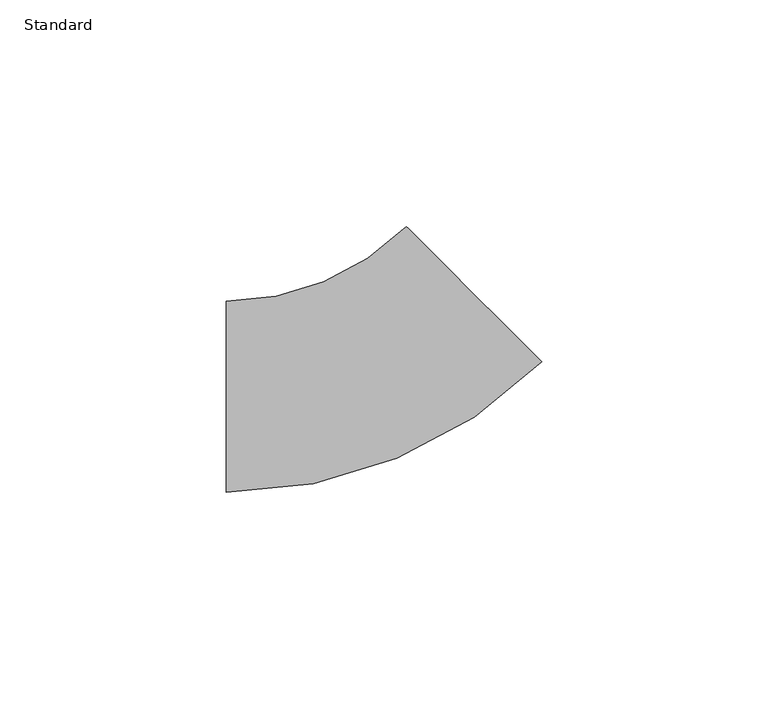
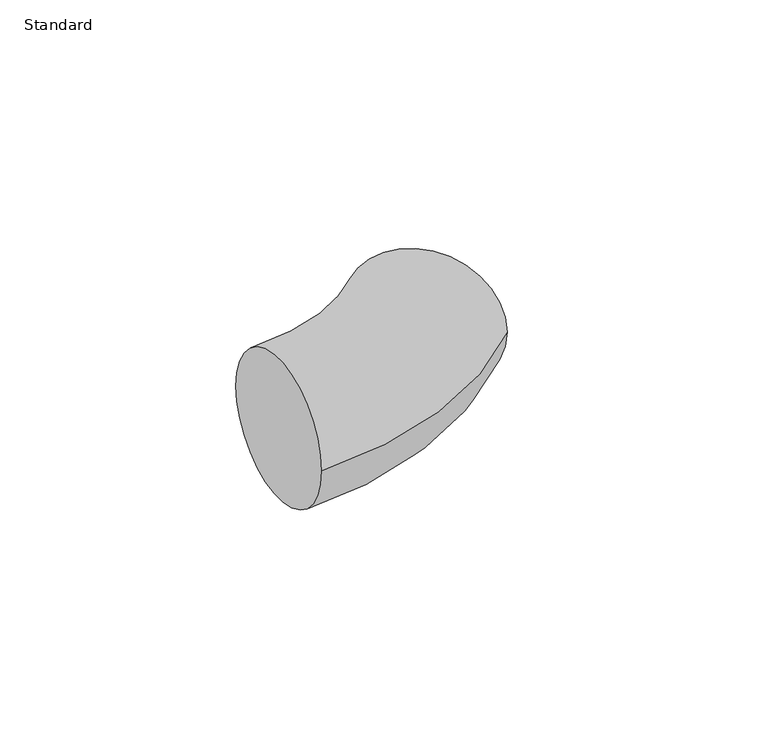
"""IFC4 building model written with IfcOpenShell, lengths in millimetres: pipe fitting geometry, Coude - Générique1 : Standard."""

import ifcopenshell
import ifcopenshell.guid

model = None  # the IFC model being written
_history = None  # IfcOwnerHistory: only IFC2X3 demands one
_inside = {}  # id of a spatial element -> (the spatial element, [elements in it])
_under = {}  # id of a project, library or spatial element -> (it, [spatial elements below it])
_declared = {}  # id of a project -> (the project, [libraries it declares])
_typed = {}  # id of a type object -> (the type object, [elements of that type])
_made_of = {}  # id of a material, layer set ... -> (it, [elements and type objects made of it])


def new_model(schema):
    """Start an empty IFC model of exactly this schema.

    Asked for "IFC4X3", IfcOpenShell would pick the latest addendum, in which some entities
    have other attributes; the version numbers below select the first issue.
    IFC2X3 requires an IfcOwnerHistory on every rooted entity: one is made here for all.
    """
    global model, _history
    if schema == "IFC4X3":
        model = ifcopenshell.file(schema_version=(4, 3, 0, 0))
    else:
        model = ifcopenshell.file(schema=schema)
    _inside.clear()
    _under.clear()
    _declared.clear()
    _typed.clear()
    _made_of.clear()
    _history = None
    if model.schema == "IFC2X3":
        org = make("IfcOrganization", Name="unknown")
        user = make(
            "IfcPersonAndOrganization",
            ThePerson=make("IfcPerson", FamilyName="unknown"),
            TheOrganization=org,
        )
        app = make(
            "IfcApplication",
            ApplicationDeveloper=org,
            Version="unknown",
            ApplicationFullName="unknown",
            ApplicationIdentifier="unknown",
        )
        _history = make(
            "IfcOwnerHistory",
            OwningUser=user,
            OwningApplication=app,
            ChangeAction="ADDED",
            CreationDate=0,
        )
    return model


def make(cls, **values):
    """One entity of the class cls with the attributes given. An attribute that is None is left unset."""
    return model.create_entity(
        cls, **{name: value for name, value in values.items() if value is not None}
    )


def rooted(cls, **values):
    """An entity with a GlobalId (a new one), such as an element, a storey or a relation."""
    return make(cls, GlobalId=ifcopenshell.guid.new(), OwnerHistory=_history, **values)


def si_unit(unit_type, name, prefix=None):
    """IfcSIUnit, for example si_unit("LENGTHUNIT", "METRE", prefix="MILLI")."""
    return make("IfcSIUnit", UnitType=unit_type, Prefix=prefix, Name=name)


def assignment(units):
    """IfcUnitAssignment: the units of a project."""
    return None if units is None else make("IfcUnitAssignment", Units=units)


def point(xyz):
    """IfcCartesianPoint."""
    return None if xyz is None else make("IfcCartesianPoint", Coordinates=xyz)


def direction(xyz):
    """IfcDirection."""
    return None if xyz is None else make("IfcDirection", DirectionRatios=xyz)


def frame(location, z_axis=None, x_axis=None):
    """IfcAxis2Placement3D, a coordinate frame: its origin and axes. An axis left out is left unset."""
    return make(
        "IfcAxis2Placement3D",
        Location=point(location),
        Axis=direction(z_axis),
        RefDirection=direction(x_axis),
    )


def origin():
    """The frame at (0, 0, 0) with its axes left unset."""
    return frame((0.0, 0.0, 0.0))


def place(relative_to, where):
    """IfcLocalPlacement: puts the frame where relative to a parent placement (None: the world)."""
    return make(
        "IfcLocalPlacement", PlacementRelTo=relative_to, RelativePlacement=where
    )


def context(
    kind, dimensions, precision=None, world=None, true_north=None, identifier=None
):
    """IfcGeometricRepresentationContext, for example the 3D "Model" context."""
    return make(
        "IfcGeometricRepresentationContext",
        ContextIdentifier=identifier,
        ContextType=kind,
        CoordinateSpaceDimension=dimensions,
        Precision=precision,
        WorldCoordinateSystem=world,
        TrueNorth=true_north,
    )


def project(units=None, contexts=None):
    """IfcProject with its units and contexts."""
    return rooted(
        "IfcProject",
        Name="project",
        RepresentationContexts=contexts,
        UnitsInContext=assignment(units),
    )


def spatial(cls, under=None, at=None, **own):
    """A site, building, storey or space (cls), placed at a placement, below another one or the project."""
    s = rooted(cls, ObjectPlacement=at, **own)
    if under is not None:
        _under.setdefault(under.id(), (under, []))[1].append(s)
    return s


def circle_curve(where, radius):
    """IfcCircle in the frame where."""
    return make("IfcCircle", Position=where, Radius=radius)


def ellipse_curve(where, semi_axis1, semi_axis2):
    """IfcEllipse in the frame where."""
    return make(
        "IfcEllipse", Position=where, SemiAxis1=semi_axis1, SemiAxis2=semi_axis2
    )


def trimmed(basis, trim1, trim2, sense, master):
    """IfcTrimmedCurve: the piece of a basis curve between two trims."""
    return make(
        "IfcTrimmedCurve",
        BasisCurve=basis,
        Trim1=trim1,
        Trim2=trim2,
        SenseAgreement=sense,
        MasterRepresentation=master,
    )


def shape(context_of_items, identifier, shape_type, items):
    """IfcShapeRepresentation: the items that make up one representation, for example the "Body"."""
    return make(
        "IfcShapeRepresentation",
        ContextOfItems=context_of_items,
        RepresentationIdentifier=identifier,
        RepresentationType=shape_type,
        Items=items,
    )


def source(mapping_origin, context_of_items, identifier, shape_type, items):
    """IfcRepresentationMap: a shape defined once, which mapped items show again and again."""
    return make(
        "IfcRepresentationMap",
        MappingOrigin=mapping_origin,
        MappedRepresentation=shape(context_of_items, identifier, shape_type, items),
    )


def transform(
    local_origin,
    x_axis=None,
    y_axis=None,
    z_axis=None,
    scale=None,
    scale2=None,
    scale3=None,
    uniform=True,
):
    """IfcCartesianTransformationOperator3D, or its non-uniform kind. x_axis, y_axis, z_axis: its Axis1, 2, 3."""
    if uniform:
        return make(
            "IfcCartesianTransformationOperator3D",
            Axis1=direction(x_axis),
            Axis2=direction(y_axis),
            LocalOrigin=point(local_origin),
            Scale=scale,
            Axis3=direction(z_axis),
        )
    return make(
        "IfcCartesianTransformationOperator3DnonUniform",
        Axis1=direction(x_axis),
        Axis2=direction(y_axis),
        LocalOrigin=point(local_origin),
        Scale=scale,
        Axis3=direction(z_axis),
        Scale2=scale2,
        Scale3=scale3,
    )


def mapped(mapping_source, mapping_target):
    """IfcMappedItem: shows the shape of a source again, moved by a transform."""
    return make(
        "IfcMappedItem", MappingSource=mapping_source, MappingTarget=mapping_target
    )


def made_of(thing, what):
    """Note that an element or type object is made of a material, layer set ...; save() writes the relation."""
    if what is not None:
        _made_of.setdefault(what.id(), (what, []))[1].append(thing)
    return thing


def element(
    cls,
    number,
    at=None,
    inside=None,
    cuts=None,
    type_object=None,
    material=None,
    context=None,
    identifier="Body",
    shape_type=None,
    held_by="IfcProductDefinitionShape",
    body=None,
    shapes=None,
    **own,
):
    """One element of the class cls, such as IfcWall. Its Tag is "e" and its number.

    at: its placement. inside: the storey or other place that contains it. cuts: it is an
    opening in that element (IfcRelVoidsElement). A single representation is given by context,
    identifier, shape_type and body (its items); several are given by shapes. held_by: the class
    of the entity that holds the representations. save() writes the other relations.
    """
    e = rooted(cls, Tag="e%d" % number, ObjectPlacement=at, **own)
    if body is not None:
        shapes = [shape(context, identifier, shape_type, body)]
    if shapes is not None:
        e.Representation = make(held_by, Representations=shapes)
    if inside is not None:
        _inside.setdefault(inside.id(), (inside, []))[1].append(e)
    if cuts is not None:
        rooted(
            "IfcRelVoidsElement", RelatingBuildingElement=cuts, RelatedOpeningElement=e
        )
    if type_object is not None:
        _typed.setdefault(type_object.id(), (type_object, []))[1].append(e)
    return made_of(e, material)


def aggregate(whole, parts):
    """IfcRelAggregates: a whole, such as a stair, and the parts it consists of."""
    return rooted("IfcRelAggregates", RelatingObject=whole, RelatedObjects=parts)


def save(model, path):
    """Write the relations noted so far, then the file.

    IfcRelAggregates (storeys below a building ...), IfcRelContainedInSpatialStructure (elements
    in a storey), IfcRelDefinesByType, IfcRelAssociatesMaterial and IfcRelDeclares: one each for
    every whole, place, type object, material and project.
    """
    for whole, parts in _under.values():
        aggregate(whole, parts)
    for where, things in _inside.values():
        rooted(
            "IfcRelContainedInSpatialStructure",
            RelatedElements=things,
            RelatingStructure=where,
        )
    for kind, things in _typed.values():
        rooted("IfcRelDefinesByType", RelatedObjects=things, RelatingType=kind)
    for what, things in _made_of.values():
        rooted("IfcRelAssociatesMaterial", RelatedObjects=things, RelatingMaterial=what)
    for by, libraries in _declared.values():
        rooted("IfcRelDeclares", RelatingContext=by, RelatedDefinitions=libraries)
    model.write(path)


def plane_surface(at):
    """IfcPlane: the flat surface through the origin of the frame at, square to its z axis."""
    return make("IfcPlane", Position=at)


def revolved_surface(curve, axis_point, axis_direction):
    """IfcSurfaceOfRevolution: the curve turned about the line through axis_point along axis_direction."""
    return make(
        "IfcSurfaceOfRevolution",
        SweptCurve=make("IfcArbitraryOpenProfileDef", ProfileType="CURVE", Curve=curve),
        AxisPosition=make("IfcAxis1Placement", Location=point(axis_point), Axis=direction(axis_direction)),
    )


def advanced_brep(points, edges, surfaces, faces):
    """IfcAdvancedBrep: a solid bounded by faces that lie on surfaces and meet in shared edges.

    An edge is (start, end): straight between two places in points (the first is 0);
    or (start, end, curve); or (start, end, curve, False) where it runs against its curve.
    A face is (place in surfaces, loops), or (place, loops, False) where it looks against
    its surface's normal. A loop lists edges by number (the first is 1), with a minus sign
    where the edge is run from its end to its start. The first loop is the outer one.
    """
    corners = [point(p) for p in points]
    vertices = [make("IfcVertexPoint", VertexGeometry=c) for c in corners]
    made = []
    for start, end, *more in edges:
        made.append(
            make(
                "IfcEdgeCurve",
                EdgeStart=vertices[start],
                EdgeEnd=vertices[end],
                EdgeGeometry=more[0] if more else make("IfcPolyline", Points=[corners[start], corners[end]]),
                SameSense=more[1] if len(more) > 1 else True,
            )
        )
    hull = []
    for where, loops, *sense in faces:
        bounds = []
        for j, loop in enumerate(loops):
            ring = [make("IfcOrientedEdge", EdgeElement=made[abs(k) - 1], Orientation=k > 0) for k in loop]
            bounds.append(
                make(
                    "IfcFaceOuterBound" if j == 0 else "IfcFaceBound",
                    Bound=make("IfcEdgeLoop", EdgeList=ring),
                    Orientation=True,
                )
            )
        hull.append(make("IfcAdvancedFace", Bounds=bounds, FaceSurface=surfaces[where], SameSense=sense[0] if sense else True))
    return make("IfcAdvancedBrep", Outer=make("IfcClosedShell", CfsFaces=hull))


def standard_a87af493(model_context):
    return source(origin(), model_context, "Body", "AdvancedBrep", [
        advanced_brep(
        [(-32.0, -21.1, 0.0), (-32.0, 21.1, 0.0), (37.5473701, 7.7074639, 0.0), (7.7074639, 37.5473701, 0.0)],
        [
            (0, 1, circle_curve(frame((-32.0, 0.0, 0.0), z_axis=(-1.0, 0.0, 0.0), x_axis=(0.0, 1.0, 0.0)), 21.1)),
            (1, 0, circle_curve(frame((-32.0, 0.0, 0.0), z_axis=(-1.0, 0.0, 0.0), x_axis=(0.0, 1.0, 0.0)), 21.1)),
            (2, 3, circle_curve(frame((22.627417, 22.627417, 0.0), z_axis=(0.7071067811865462, 0.7071067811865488, 0.0), x_axis=(-0.7071067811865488, 0.7071067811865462, 0.0)), 21.1)),
            (3, 2, circle_curve(frame((22.627417, 22.627417, 0.0), z_axis=(0.7071067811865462, 0.7071067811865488, 0.0), x_axis=(-0.7071067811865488, 0.7071067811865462, 0.0)), 21.1)),
            (3, 1, circle_curve(frame((-32.0, 77.254834, 0.0), z_axis=(0.0, 0.0, -1.0), x_axis=(0.0, -1.0, 0.0)), 56.154834)),
            (0, 2, circle_curve(frame((-32.0, 77.254834, 0.0), z_axis=(0.0, 0.0, 1.0), x_axis=(0.0, -1.0, 0.0)), 98.354834)),
        ],
        [
            plane_surface(frame((-32.0, 0.0, 0.0), z_axis=(-1.0, 0.0, 0.0), x_axis=(0.0, 0.0, 1.0))),
            plane_surface(frame((22.627417, 22.627417, 0.0), z_axis=(0.7071067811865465, 0.7071067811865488, 0.0), x_axis=(0.0, 0.0, 1.0))),
            revolved_surface(trimmed(ellipse_curve(frame((-32.0, 0.0, 0.0), z_axis=(-1.0, 0.0, 0.0), x_axis=(0.0, 1.0, 0.0)), 21.1, 21.1), [point((-32.0, -21.1, 0.0))], [point((-32.0, 21.1, 0.0))], True, "CARTESIAN"), (-32.0, 77.254834, 0.0), (0.0, 0.0, 1.0)),
            revolved_surface(trimmed(ellipse_curve(frame((-32.0, 0.0, 0.0), z_axis=(-1.0, 0.0, 0.0), x_axis=(0.0, 1.0, 0.0)), 21.1, 21.1), [point((-32.0, 21.1, 0.0))], [point((-32.0, -21.1, 0.0))], True, "CARTESIAN"), (-32.0, 77.254834, 0.0), (0.0, 0.0, 1.0)),
        ],
        [
            (0, [[1, 2]]),
            (1, [[3, 4]]),
            (2, [[5, -1, 6, -4]]),
            (3, [[-6, -2, -5, -3]]),
        ],
    ),
    ])


if __name__ == "__main__":
    model = new_model("IFC4")
    model_context = context("Model", 3, world=origin())
    ifc_project = project(units=[si_unit("LENGTHUNIT", "METRE", prefix="MILLI")], contexts=[model_context])
    site = spatial("IfcSite", under=ifc_project)
    building = spatial("IfcBuilding", under=site)
    placement = place(None, origin())
    standard_shape = standard_a87af493(model_context)
    element("IfcPipeFitting", 1, ObjectType="Coude - Générique1 : Standard", at=placement, inside=building, context=model_context, shape_type="MappedRepresentation", body=[
        mapped(standard_shape, transform((0.0, 0.0, 0.0), x_axis=(1.0, 0.0, 0.0), y_axis=(0.0, 1.0, 0.0), z_axis=(0.0, 0.0, 1.0))),
    ])
    save(model, "model.ifc")
